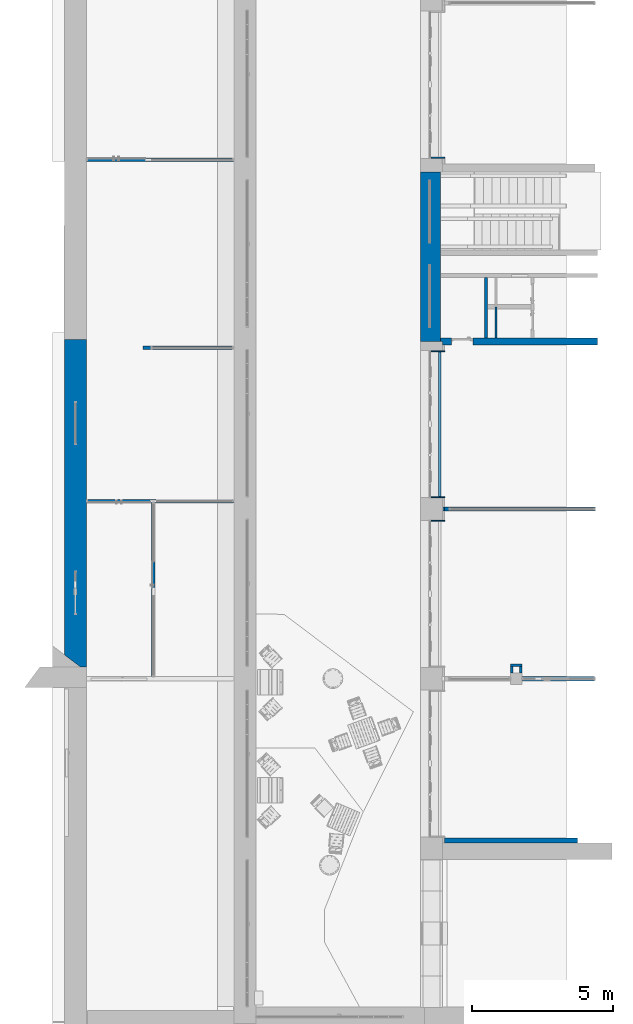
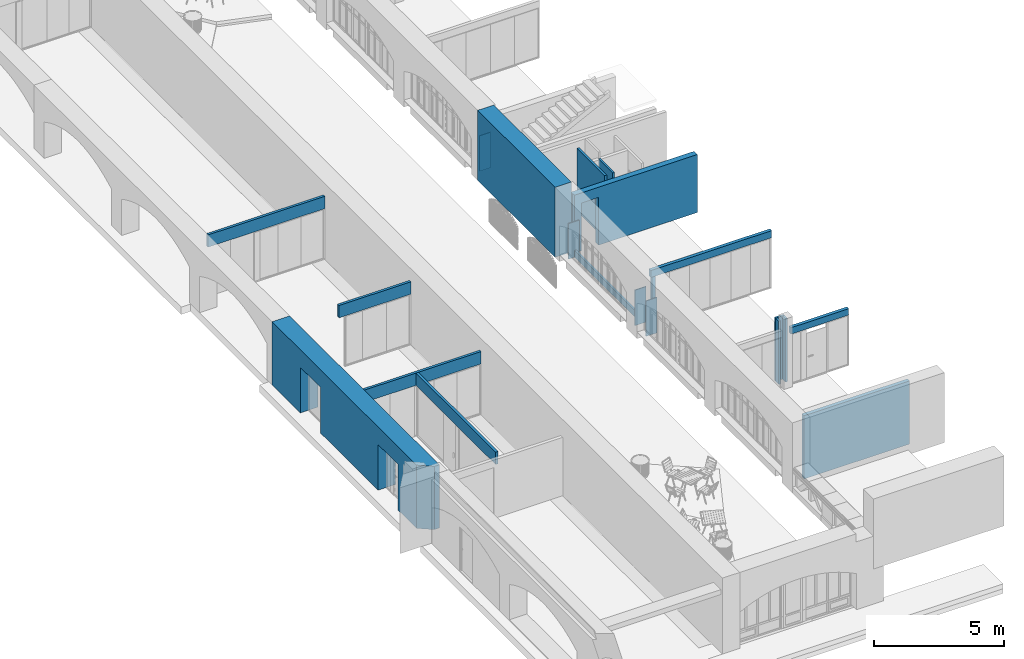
# One storey, part 72 of 88: 21 walls, 5 openings.
"""IFC2X3 building model written with IfcOpenShell, lengths in millimetres."""

from ifc_helpers import new_model, entity, si_unit, converted_unit, derived_unit, direction, frame, frame_2d, origin, origin_2d_with_axis, place, context, subcontext, project, spatial, polyline, circle_curve, parameter, trimmed, segment, composite_curve, rectangle, outline, extrude, clip, bounded_halfspace, faceted_brep, material, layer, layer_set, layer_usage, type_object, element, save


model = new_model("IFC2X3")

# Units and contexts
model_context = context("Model", 3, precision=0.01, world=origin(), true_north=direction((6.123031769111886e-17, 1.0)))
body_context = subcontext(model_context, "Body", "Model", "MODEL_VIEW")
ifc_project = project(units=[si_unit("LENGTHUNIT", "METRE", prefix="MILLI"), si_unit("AREAUNIT", "SQUARE_METRE"), si_unit("VOLUMEUNIT", "CUBIC_METRE"), converted_unit("PLANEANGLEUNIT", "DEGREE", entity("IfcPlaneAngleMeasure", 0.017453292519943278), si_unit("PLANEANGLEUNIT", "RADIAN"), dimensions=[0, 0, 0, 0, 0, 0, 0]), si_unit("MASSUNIT", "GRAM", prefix="KILO"), derived_unit("MASSDENSITYUNIT", [(si_unit("MASSUNIT", "GRAM", prefix="KILO"), 1), (si_unit("LENGTHUNIT", "METRE"), -3)]), derived_unit("IONCONCENTRATIONUNIT", [(si_unit("MASSUNIT", "GRAM", prefix="KILO"), 1), (si_unit("LENGTHUNIT", "METRE"), -3)]), derived_unit("MOMENTOFINERTIAUNIT", [(si_unit("LENGTHUNIT", "METRE"), 4)]), si_unit("TIMEUNIT", "SECOND"), si_unit("FREQUENCYUNIT", "HERTZ"), si_unit("THERMODYNAMICTEMPERATUREUNIT", "DEGREE_CELSIUS"), derived_unit("THERMALTRANSMITTANCEUNIT", [(si_unit("MASSUNIT", "GRAM", prefix="KILO"), 1), (si_unit("THERMODYNAMICTEMPERATUREUNIT", "KELVIN"), -1), (si_unit("TIMEUNIT", "SECOND"), -3)]), derived_unit("THERMALCONDUCTANCEUNIT", [(si_unit("MASSUNIT", "GRAM", prefix="KILO"), 1), (si_unit("THERMODYNAMICTEMPERATUREUNIT", "KELVIN"), -1), (si_unit("TIMEUNIT", "SECOND"), -3), (si_unit("LENGTHUNIT", "METRE"), 1)]), derived_unit("VOLUMETRICFLOWRATEUNIT", [(si_unit("LENGTHUNIT", "METRE", prefix="DECI"), 3), (si_unit("TIMEUNIT", "SECOND"), -1)]), derived_unit("MASSFLOWRATEUNIT", [(si_unit("MASSUNIT", "GRAM", prefix="KILO"), 1), (si_unit("TIMEUNIT", "SECOND"), -1)]), derived_unit("ROTATIONALFREQUENCYUNIT", [(si_unit("TIMEUNIT", "SECOND"), -1)]), si_unit("ELECTRICCURRENTUNIT", "AMPERE"), si_unit("ELECTRICVOLTAGEUNIT", "VOLT"), si_unit("POWERUNIT", "WATT"), si_unit("FORCEUNIT", "NEWTON", prefix="KILO"), si_unit("ILLUMINANCEUNIT", "LUX"), si_unit("LUMINOUSFLUXUNIT", "LUMEN"), si_unit("LUMINOUSINTENSITYUNIT", "CANDELA"), si_unit("ENERGYUNIT", "JOULE"), derived_unit("USERDEFINED", [(si_unit("MASSUNIT", "GRAM", prefix="KILO"), -1), (si_unit("LENGTHUNIT", "METRE"), -2), (si_unit("TIMEUNIT", "SECOND"), 3), (si_unit("LUMINOUSFLUXUNIT", "LUMEN"), 1)]), derived_unit("USERDEFINED", [(si_unit("MASSUNIT", "GRAM", prefix="KILO"), 1), (si_unit("TIMEUNIT", "SECOND"), -3), (si_unit("LENGTHUNIT", "METRE"), 3), (si_unit("ELECTRICCURRENTUNIT", "AMPERE"), -2)]), derived_unit("SOUNDPOWERUNIT", [(si_unit("MASSUNIT", "GRAM", prefix="KILO"), 1), (si_unit("TIMEUNIT", "SECOND"), -3), (si_unit("LENGTHUNIT", "METRE"), 2)]), derived_unit("SOUNDPRESSUREUNIT", [(si_unit("MASSUNIT", "GRAM", prefix="KILO"), 1), (si_unit("LENGTHUNIT", "METRE"), -1), (si_unit("TIMEUNIT", "SECOND"), -2)]), derived_unit("LINEARVELOCITYUNIT", [(si_unit("LENGTHUNIT", "METRE"), 1), (si_unit("TIMEUNIT", "SECOND"), -1)]), si_unit("PRESSUREUNIT", "PASCAL"), derived_unit("USERDEFINED", [(si_unit("MASSUNIT", "GRAM", prefix="KILO"), 1), (si_unit("LENGTHUNIT", "METRE"), -2), (si_unit("TIMEUNIT", "SECOND"), -2)]), derived_unit("LINEARFORCEUNIT", [(si_unit("MASSUNIT", "GRAM", prefix="KILO"), 1), (si_unit("TIMEUNIT", "SECOND"), -2)]), derived_unit("PLANARFORCEUNIT", [(si_unit("MASSUNIT", "GRAM", prefix="KILO"), 1), (si_unit("LENGTHUNIT", "METRE"), -1), (si_unit("TIMEUNIT", "SECOND"), -2)]), derived_unit("SPECIFICHEATCAPACITYUNIT", [(si_unit("THERMODYNAMICTEMPERATUREUNIT", "KELVIN"), -1), (si_unit("LENGTHUNIT", "METRE"), 2), (si_unit("TIMEUNIT", "SECOND"), -2)]), derived_unit("HEATFLUXDENSITYUNIT", [(si_unit("MASSUNIT", "GRAM", prefix="KILO"), 1), (si_unit("TIMEUNIT", "SECOND"), -3)]), derived_unit("HEATINGVALUEUNIT", [(si_unit("LENGTHUNIT", "METRE"), 2), (si_unit("TIMEUNIT", "SECOND"), -2)]), derived_unit("VAPORPERMEABILITYUNIT", [(si_unit("LENGTHUNIT", "METRE"), -1), (si_unit("TIMEUNIT", "SECOND"), 1)]), derived_unit("DYNAMICVISCOSITYUNIT", [(si_unit("MASSUNIT", "GRAM", prefix="KILO"), 1), (si_unit("TIMEUNIT", "SECOND"), -1), (si_unit("LENGTHUNIT", "METRE"), -1)]), derived_unit("THERMALEXPANSIONCOEFFICIENTUNIT", [(si_unit("THERMODYNAMICTEMPERATUREUNIT", "KELVIN"), -1)]), derived_unit("MODULUSOFELASTICITYUNIT", [(si_unit("MASSUNIT", "GRAM", prefix="KILO"), 1), (si_unit("LENGTHUNIT", "METRE"), -1), (si_unit("TIMEUNIT", "SECOND"), -2)]), derived_unit("ISOTHERMALMOISTURECAPACITYUNIT", [(si_unit("MASSUNIT", "GRAM", prefix="KILO"), -1), (si_unit("LENGTHUNIT", "METRE"), 3)]), derived_unit("MOISTUREDIFFUSIVITYUNIT", [(si_unit("TIMEUNIT", "SECOND"), -1), (si_unit("LENGTHUNIT", "METRE"), 2)]), derived_unit("MASSPERLENGTHUNIT", [(si_unit("MASSUNIT", "GRAM", prefix="KILO"), 1), (si_unit("LENGTHUNIT", "METRE"), -1)]), derived_unit("THERMALRESISTANCEUNIT", [(si_unit("MASSUNIT", "GRAM", prefix="KILO"), -1), (si_unit("TIMEUNIT", "SECOND"), 3), (si_unit("THERMODYNAMICTEMPERATUREUNIT", "KELVIN"), 1)]), derived_unit("ACCELERATIONUNIT", [(si_unit("LENGTHUNIT", "METRE"), 1), (si_unit("TIMEUNIT", "SECOND"), -2)]), derived_unit("ANGULARVELOCITYUNIT", [(si_unit("TIMEUNIT", "SECOND"), -1), (si_unit("PLANEANGLEUNIT", "RADIAN"), 1)]), derived_unit("LINEARSTIFFNESSUNIT", [(si_unit("MASSUNIT", "GRAM", prefix="KILO"), 1), (si_unit("TIMEUNIT", "SECOND"), -2)]), derived_unit("WARPINGCONSTANTUNIT", [(si_unit("LENGTHUNIT", "METRE"), 6)]), derived_unit("LINEARMOMENTUNIT", [(si_unit("MASSUNIT", "GRAM", prefix="KILO"), 1), (si_unit("LENGTHUNIT", "METRE"), 1), (si_unit("TIMEUNIT", "SECOND"), -2)]), derived_unit("TORQUEUNIT", [(si_unit("MASSUNIT", "GRAM", prefix="KILO"), 1), (si_unit("LENGTHUNIT", "METRE"), 2), (si_unit("TIMEUNIT", "SECOND"), -2)])], contexts=[model_context])

# Site, building, storey
site_placement = place(None, origin())
site = spatial("IfcSite", under=ifc_project, at=site_placement, Name="Default", CompositionType="ELEMENT")
building_placement = place(site_placement, origin())
building = spatial("IfcBuilding", under=site, at=building_placement, Name="Eesti Rahvusraamatukogu hoone renoveerimise projekteerimistööd", CompositionType="ELEMENT")
storey_placement = place(building_placement, origin())
storey = spatial("IfcBuildingStorey", under=building, at=storey_placement, Name="1. korrus", CompositionType="ELEMENT", Elevation=0.0)

# Wall, openings
ifc_material_1 = material(Name="ol. olev materjal")
ifc_layer_1 = layer(ifc_material_1, 780.0)
ifc_layer_set_1 = layer_set([ifc_layer_1], Name="Basic Wall:ol. olev - 780mm")
ifc_layer_usage_1 = layer_usage(ifc_layer_set_1, "AXIS2", "NEGATIVE", 390.0)
wall_type_1 = type_object("IfcWallType", Name="Basic Wall:ol. olev - 780mm", PredefinedType="STANDARD", material=ifc_layer_set_1)
wall_1_placement = place(storey_placement, frame((-48970.0, 24382.39541666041, 0.0), z_axis=(0.0, 0.0, 1.0), x_axis=(0.0, -1.0, 0.0)))
wall_1 = element("IfcWallStandardCase", 1, at=wall_1_placement, inside=storey, type_object=wall_type_1, material=ifc_layer_usage_1, Name="Basic Wall:ol. olev - 780mm", ObjectType="Basic Wall:ol. olev - 780mm", context=body_context, shape_type="Clipping", body=[
    clip(extrude(rectangle(XDim=11567.395416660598, YDim=779.9999999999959, at=frame_2d((5783.697708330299, -2.5579538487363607e-13), x_axis=(-1.0, 0.0))), origin(), (0.0, 0.0, 1.0), 2980.0), bounded_halfspace(frame((11147.221735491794, -390.0, 2980.0), z_axis=(-0.7986355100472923, 0.6018150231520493, 0.0), x_axis=(-0.6018150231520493, -0.7986355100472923, 0.0)), True, frame((11147.221735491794, -390.0, 2980.0), z_axis=(-0.7986355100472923, 0.6018150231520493, 0.0), x_axis=(-0.6018150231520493, -0.7986355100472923, 0.0)), polyline([(0.0, 0.0), (-698.177454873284, 0.0), (-698.1774548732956, -2980.0), (0.0, -2980.0), (0.0, 0.0)]))),
])
opening_1_placement = place(wall_1_placement, frame((24382.39541666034, 48970.0, 0.0)))
element("IfcOpeningElement", 2, at=opening_1_placement, cuts=wall_1, Name="Basic Wall:ol. olev - 780mm", ObjectType="Opening", context=body_context, shape_type="SweptSolid", body=[
    extrude(rectangle(XDim=2150.0, YDim=1550.0000000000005, at=origin_2d_with_axis()), frame((-15430.0, -50104.0, 1075.0), z_axis=(0.0, 1.0, 0.0), x_axis=(0.0, 0.0, -1.0)), (0.0, 0.0, 1.0), 3048.0),
])
opening_2_placement = place(wall_1_placement, frame((24382.39541666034, 48970.0, 0.0)))
element("IfcOpeningElement", 3, at=opening_2_placement, cuts=wall_1, Name="Basic Wall:ol. olev - 780mm", ObjectType="Opening", context=body_context, shape_type="SweptSolid", body=[
    extrude(rectangle(XDim=2150.0, YDim=1549.9999999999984, at=frame_2d((0.0, -2.1600499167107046e-12), x_axis=(1.0, 0.0))), frame((-21430.0, -50104.0, 1075.0), z_axis=(0.0, 1.0, 0.0), x_axis=(0.0, 0.0, -1.0)), (0.0, 0.0, 1.0), 3048.0),
])

# Wall, opening
ifc_layer_2 = layer(ifc_material_1, 250.00000000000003)
ifc_layer_set_2 = layer_set([ifc_layer_2], Name="Basic Wall:ol. olev - 250mm")
ifc_layer_usage_2 = layer_usage(ifc_layer_set_2, "AXIS2", "NEGATIVE", 125.00000000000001)
wall_type_2 = type_object("IfcWallType", Name="Basic Wall:ol. olev - 250mm", PredefinedType="STANDARD", material=ifc_layer_set_2)
wall_2_placement = place(storey_placement, frame((-36060.0, 24315.0, 1650.0)))
wall_2 = element("IfcWallStandardCase", 4, at=wall_2_placement, inside=storey, type_object=wall_type_2, material=ifc_layer_usage_2, Name="Basic Wall:ol. olev - 250mm", ObjectType="Basic Wall:ol. olev - 250mm", context=body_context, shape_type="SweptSolid", body=[
    extrude(outline(polyline([(60.0, -125.0), (5470.0, -125.0), (5550.0, -125.0), (5550.0, 0.0), (5550.0, 125.0), (5470.0, 125.0), (0.0, 125.0), (0.0, 0.0), (60.0, 0.0), (60.0, -125.0)])), origin(), (0.0, 0.0, 1.0), 2730.0000000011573),
])
opening_3_placement = place(wall_2_placement, frame((390.0, -125.0, 0.0)))
element("IfcOpeningElement", 5, at=opening_3_placement, cuts=wall_2, Name="SMA_D01, 1-poolne:uus puituks - 750x2250 lävepakuta:1", ObjectType="Opening", context=body_context, shape_type="SweptSolid", body=[
    extrude(rectangle(XDim=2249.9999999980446, YDim=749.9999999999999, at=frame_2d((1124.9999999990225, 375.0000000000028), x_axis=(1.0, 0.0))), frame((0.0, 0.0, 0.0), z_axis=(0.0, 1.0, 0.0), x_axis=(0.0, 0.0, 1.0)), (0.0, 0.0, 1.0), 250.00000000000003),
])

# Walls
ifc_layer_3 = layer(ifc_material_1, 720.0)
ifc_layer_set_3 = layer_set([ifc_layer_3], Name="Basic Wall:ol. olev - 720mm")
ifc_layer_usage_3 = layer_usage(ifc_layer_set_3, "AXIS2", "NEGATIVE", 360.0)
wall_type_3 = type_object("IfcWallType", Name="Basic Wall:ol. olev - 720mm", PredefinedType="STANDARD", material=ifc_layer_set_3)
wall_3_placement = place(storey_placement, frame((-36420.0, 30450.0, 1650.0), z_axis=(0.0, 0.0, 1.0), x_axis=(0.0, -1.0, 0.0)))
element("IfcWallStandardCase", 6, at=wall_3_placement, inside=storey, type_object=wall_type_3, material=ifc_layer_usage_3, Name="Basic Wall:ol. olev - 720mm", ObjectType="Basic Wall:ol. olev - 720mm", context=body_context, shape_type="SweptSolid", body=[
    extrude(rectangle(XDim=5989.9999999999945, YDim=720.0000000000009, at=frame_2d((3139.9999999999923, 6.821210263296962e-13), x_axis=(-1.0, 0.0))), origin(), (0.0, 0.0, 1.0), 3300.0000000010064),
])
ifc_material_2 = material(Name="EST. Müüritis. Väikeplokk. Poorbetoonplokk")
ifc_layer_4 = layer(ifc_material_2, 100.0)
ifc_layer_set_4 = layer_set([ifc_layer_4], Name="Basic Wall:SS-70 - 100 poorbetoon")
ifc_layer_usage_4 = layer_usage(ifc_layer_set_4, "AXIS2", "NEGATIVE", 50.0)
wall_type_4 = type_object("IfcWallType", Name="Basic Wall:SS-70 - 100 poorbetoon", PredefinedType="STANDARD", material=ifc_layer_set_4)
wall_4_placement = place(storey_placement, frame((-34455.0, 24440.0, 1650.0), z_axis=(0.0, 0.0, 1.0), x_axis=(0.0, 1.0, 0.0)))
element("IfcWallStandardCase", 7, at=wall_4_placement, inside=storey, type_object=wall_type_4, material=ifc_layer_usage_4, Name="Basic Wall:SS-70 - 100 poorbetoon", ObjectType="Basic Wall:SS-70 - 100 poorbetoon", context=body_context, shape_type="SweptSolid", body=[
    extrude(rectangle(XDim=2129.999999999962, YDim=100.00000000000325, at=frame_2d((1064.999999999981, -8.881784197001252e-14), x_axis=(-1.0, 0.0))), origin(), (0.0, 0.0, 1.0), 2980.000000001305),
])
ifc_material_3 = material(Name="EST. Ehitusplaat. Kipsplaat")
ifc_layer_5 = layer(ifc_material_3, 12.5)
ifc_layer_6 = layer(ifc_material_3, 12.5)
ifc_material_4 = material(Name="EST. Roov. Kipsplaadi alusroov.Mineraalvillaga. Vertikaalne")
ifc_layer_7 = layer(ifc_material_4, 95.00000000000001)
ifc_layer_8 = layer(ifc_material_3, 12.5)
ifc_layer_9 = layer(ifc_material_3, 12.5)
ifc_layer_set_5 = layer_set([ifc_layer_5, ifc_layer_6, ifc_layer_7, ifc_layer_8, ifc_layer_9], Name="Basic Wall:SS-52 - 145 kergsein 48db")
ifc_layer_usage_5 = layer_usage(ifc_layer_set_5, "AXIS2", "NEGATIVE", 72.5)
wall_type_5 = type_object("IfcWallType", Name="Basic Wall:SS-52 - 145 kergsein 48db", PredefinedType="STANDARD", material=ifc_layer_set_5)
wall_5_placement = place(storey_placement, frame((-35970.0, 18390.0, 4050.0)))
element("IfcWallStandardCase", 8, at=wall_5_placement, inside=storey, type_object=wall_type_5, material=ifc_layer_usage_5, Name="Basic Wall:SS-52 - 145 kergsein 48db", ObjectType="Basic Wall:SS-52 - 145 kergsein 48db", context=body_context, shape_type="SweptSolid", body=[
    extrude(rectangle(XDim=5380.000000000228, YDim=145.00000000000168, at=frame_2d((2690.000000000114, 0.0), x_axis=(-1.0, 0.0))), origin(), (0.0, 0.0, 1.0), 330.0000000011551),
])
ifc_layer_usage_6 = layer_usage(ifc_layer_set_5, "AXIS2", "NEGATIVE", 72.5)
wall_6_placement = place(storey_placement, frame((-33190.0, 12390.0, 4050.0000000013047)))
element("IfcWallStandardCase", 9, at=wall_6_placement, inside=storey, type_object=wall_type_5, material=ifc_layer_usage_6, Name="Basic Wall:SS-52 - 145 kergsein 48db", ObjectType="Basic Wall:SS-52 - 145 kergsein 48db", context=body_context, shape_type="SweptSolid", body=[
    extrude(rectangle(XDim=2569.9999999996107, YDim=145.00000000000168, at=frame_2d((1284.9999999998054, 0.0), x_axis=(-1.0, 0.0))), origin(), (0.0, 0.0, 1.0), 300.0000000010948),
])
ifc_layer_usage_7 = layer_usage(ifc_layer_set_5, "AXIS2", "NEGATIVE", 72.5)
wall_7_placement = place(storey_placement, frame((-35765.499999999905, 18390.0, 1650.000000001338), z_axis=(0.0, 0.0, 1.0), x_axis=(-1.0, 0.0, 0.0)))
element("IfcWallStandardCase", 10, at=wall_7_placement, inside=storey, type_object=wall_type_5, material=ifc_layer_usage_7, Name="Basic Wall:SS-52 - 145 kergsein 48db", ObjectType="Basic Wall:SS-52 - 145 kergsein 48db", context=body_context, shape_type="SweptSolid", body=[
    extrude(rectangle(XDim=150.00000000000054, YDim=145.00000000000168, at=frame_2d((75.00000000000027, 0.0), x_axis=(-1.0, 0.0))), origin(), (0.0, 0.0, 1.0), 2400.0),
])

# Wall, openings
ifc_layer_10 = layer(ifc_material_3, 14.0)
ifc_material_5 = material(Name="EST. Ehitusplaat. OSB")
ifc_layer_11 = layer(ifc_material_5, 15.0)
ifc_material_6 = material(Name="EST. Õhkvahe. Roov. Kipsplaadi alusroov. Vertikaalne")
ifc_layer_12 = layer(ifc_material_6, 66.0)
ifc_material_7 = material(Name="EST. Soojustus.PIR. Default")
ifc_layer_13 = layer(ifc_material_7, 70.0)
ifc_layer_set_6 = layer_set([ifc_layer_10, ifc_layer_11, ifc_layer_12, ifc_layer_13], Name="Basic Wall:VS-01 - 165 sooj. mitte läbiv")
ifc_layer_usage_8 = layer_usage(ifc_layer_set_6, "AXIS2", "NEGATIVE", 82.49999999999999)
wall_type_6 = type_object("IfcWallType", Name="Basic Wall:VS-01 - 165 sooj. mitte läbiv", PredefinedType="STANDARD", material=ifc_layer_set_6)
wall_8_placement = place(storey_placement, frame((-35915.49999999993, 6672.499999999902, 1650.0)))
wall_8 = element("IfcWallStandardCase", 11, at=wall_8_placement, inside=storey, type_object=wall_type_6, material=ifc_layer_usage_8, Name="Basic Wall:VS-01 - 165 sooj. mitte läbiv", ObjectType="Basic Wall:VS-01 - 165 sooj. mitte läbiv", context=body_context, shape_type="SweptSolid", body=[
    extrude(rectangle(XDim=4695.500000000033, YDim=165.0000000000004, at=frame_2d((2347.7500000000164, -5.329070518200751e-13), x_axis=(-1.0, 0.0))), origin(), (0.0, 0.0, 1.0), 2980.0000000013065),
])
opening_4_placement = place(wall_8_placement, frame((35915.49999999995, -6672.499999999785, -1650.0)))
element("IfcOpeningElement", 12, at=opening_4_placement, cuts=wall_8, Name="Basic Wall:VS-01 - 165 sooj. mitte läbiv", ObjectType="Opening", context=body_context, shape_type="SweptSolid", body=[
    extrude(outline(composite_curve([segment(polyline([(-695.0, -2610.0), (695.0, -2610.0)]), True, "CONTINUOUS"), segment(trimmed(circle_curve(frame_2d((695.0, 0.0), x_axis=(0.0, -1.0)), 2609.9999999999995), [parameter(359.99999999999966)], [parameter(179.99999999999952)], True, "PARAMETER"), True, "CONTINUOUS"), segment(polyline([(695.0, 2610.0), (-695.0, 2610.0)]), True, "CONTINUOUS"), segment(polyline([(-695.0, 2610.0), (-695.0, -2610.0)]), True, "CONTINUOUS")], self_intersect=False)), frame((-3400.0, 5066.0, 695.0), z_axis=(0.0, 1.0, 0.0), x_axis=(0.0, 0.0, 1.0)), (0.0, 0.0, 1.0), 3048.0),
])
opening_5_placement = place(wall_8_placement, frame((35915.49999999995, -6672.499999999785, 0.0)))
element("IfcOpeningElement", 13, at=opening_5_placement, cuts=wall_8, Name="Basic Wall:VS-01 - 165 sooj. mitte läbiv", ObjectType="Opening", context=body_context, shape_type="Brep", body=[
    faceted_brep([(-24780.0, 3780.0, 0.0), (-24780.0, 3780.0, 1950.0), (-24780.0, 3906.316483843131, 2025.5811205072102), (-24780.0, 4037.395462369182, 2092.5636649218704), (-24780.0, 4172.652468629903, 2150.648965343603), (-24780.0, 4311.484406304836, 2199.5780257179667), (-24780.0, 4453.272238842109, 2239.1326766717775), (-24780.0, 4597.383749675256, 2269.136548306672), (-24780.0, 4743.176361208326, 2289.4558566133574), (-24780.0, 4890.0, 2300.0), (-24780.0, 5036.823638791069, 2289.455856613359), (-24780.0, 5182.61625032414, 2269.136548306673), (-24780.0, 5326.727761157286, 2239.1326766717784), (-24780.0, 5468.515593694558, 2199.5780257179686), (-24780.0, 5607.3475313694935, 2150.6489653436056), (-24780.0, 5742.604537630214, 2092.563664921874), (-24780.0, 5873.683516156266, 2025.5811205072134), (-24780.0, 6000.0, 1950.0), (-24780.0, 6000.0, 0.0), (-24000.0, 4743.176361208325, 2289.4558566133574), (-24000.0, 4597.383749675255, 2269.136548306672), (-24000.0, 4453.272238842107, 2239.1326766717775), (-24000.0, 4311.484406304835, 2199.5780257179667), (-24000.0, 4172.652468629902, 2150.648965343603), (-24000.0, 4037.3954623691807, 2092.5636649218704), (-24000.0, 3906.31648384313, 2025.5811205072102), (-24000.0, 3780.0, 1950.0), (-24000.0, 3780.0, 0.0), (-24000.0, 6000.0, 0.0), (-24000.0, 6000.0, 1950.0), (-24000.0, 5873.683516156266, 2025.5811205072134), (-24000.0, 5742.604537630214, 2092.563664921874), (-24000.0, 5607.3475313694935, 2150.6489653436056), (-24000.0, 5468.5155936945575, 2199.5780257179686), (-24000.0, 5326.727761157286, 2239.1326766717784), (-24000.0, 5182.616250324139, 2269.136548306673), (-24000.0, 5036.823638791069, 2289.455856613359), (-24000.0, 4890.0, 2300.0)], [[[0, 1, 2, 3, 4, 5, 6, 7, 8, 9, 10, 11, 12, 13, 14, 15, 16, 17, 18]], [[19, 20, 21, 22, 23, 24, 25, 26, 27, 28, 29, 30, 31, 32, 33, 34, 35, 36, 37]], [[1, 0, 27, 26]], [[2, 1, 26, 25]], [[3, 2, 25, 24]], [[4, 3, 24, 23]], [[5, 4, 23, 22]], [[7, 6, 21, 20]], [[8, 7, 20, 19]], [[9, 8, 19, 37]], [[22, 21, 6, 5]], [[10, 9, 37, 36]], [[11, 10, 36, 35]], [[12, 11, 35, 34]], [[13, 12, 34, 33]], [[15, 14, 32, 31]], [[16, 15, 31, 30]], [[17, 16, 30, 29]], [[33, 32, 14, 13]], [[18, 17, 29, 28]], [[0, 18, 28, 27]]]),
])

# Walls
ifc_material_8 = material(Name="EST. Soojustus.PIR_Powerwall Pro")
ifc_layer_14 = layer(ifc_material_8, 30.0)
ifc_material_9 = material(Name="EST. Metall. Alumiinium. Mütsprofiil.")
ifc_layer_15 = layer(ifc_material_9, 42.0)
ifc_layer_16 = layer(ifc_material_3, 12.5)
ifc_layer_set_7 = layer_set([ifc_layer_14, ifc_layer_15, ifc_layer_16], Name="Basic Wall:VS-03.1 - soojustus")
ifc_layer_usage_9 = layer_usage(ifc_layer_set_7, "AXIS2", "POSITIVE", -42.25000000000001)
wall_type_7 = type_object("IfcWallType", Name="Basic Wall:VS-03.1 - soojustus", PredefinedType="STANDARD", material=ifc_layer_set_7)
wall_9_placement = place(storey_placement, frame((-36087.749999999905, 23950.499999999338, 1650.0), z_axis=(0.0, 0.0, 1.0), x_axis=(0.0, -1.0, 0.0)))
element("IfcWallStandardCase", 14, at=wall_9_placement, inside=storey, type_object=wall_type_7, material=ifc_layer_usage_9, Name="Basic Wall:VS-03.1 - soojustus", ObjectType="Basic Wall:VS-03.1 - soojustus", context=body_context, shape_type="SweptSolid", body=[
    extrude(rectangle(XDim=5120.999999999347, YDim=84.49999999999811, at=frame_2d((2560.4999999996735, 0.0), x_axis=(-1.0, 0.0))), origin(), (0.0, 0.0, 1.0), 319.99999999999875),
])
ifc_layer_17 = layer(ifc_material_3, 13.000000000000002)
ifc_layer_18 = layer(ifc_material_6, 67.0)
ifc_layer_set_8 = layer_set([ifc_layer_17, ifc_layer_18], Name="Basic Wall:SS-57 - 80 kergsein wc")
ifc_layer_usage_10 = layer_usage(ifc_layer_set_8, "AXIS2", "POSITIVE", -39.99999999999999)
wall_type_8 = type_object("IfcWallType", Name="Basic Wall:SS-57 - 80 kergsein wc", PredefinedType="STANDARD", material=ifc_layer_set_8)
wall_10_placement = place(storey_placement, frame((-34105.0, 24440.0, 1650.0), z_axis=(0.0, 0.0, 1.0), x_axis=(0.0, 1.0, 0.0)))
element("IfcWallStandardCase", 15, at=wall_10_placement, inside=storey, type_object=wall_type_8, material=ifc_layer_usage_10, Name="Basic Wall:SS-57 - 80 kergsein wc", ObjectType="Basic Wall:SS-57 - 80 kergsein wc", context=body_context, shape_type="SweptSolid", body=[
    extrude(rectangle(XDim=1100.0000000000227, YDim=79.99999999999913, at=frame_2d((550.0000000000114, 0.0), x_axis=(-1.0, 0.0))), origin(), (0.0, 0.0, 1.0), 2980.000000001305),
])
ifc_layer_19 = layer(ifc_material_3, 12.5)
ifc_layer_20 = layer(ifc_material_5, 12.0)
ifc_layer_21 = layer(ifc_material_4, 66.0)
ifc_layer_set_9 = layer_set([ifc_layer_19, ifc_layer_20, ifc_layer_21], Name="Basic Wall:SS-50.1 - 115 kergsein 38db ühepoolne")
ifc_layer_usage_11 = layer_usage(ifc_layer_set_9, "AXIS2", "NEGATIVE", 45.25)
wall_type_9 = type_object("IfcWallType", Name="Basic Wall:SS-50.1 - 115 kergsein 38db ühepoolne", PredefinedType="STANDARD", material=ifc_layer_set_9)
wall_11_placement = place(storey_placement, frame((-33544.749999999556, 12590.0, 1650.0), z_axis=(0.0, 0.0, 1.0), x_axis=(0.0, 1.0, 0.0)))
element("IfcWallStandardCase", 16, at=wall_11_placement, inside=storey, type_object=wall_type_9, material=ifc_layer_usage_11, Name="Basic Wall:SS-50.1 - 115 kergsein 38db ühepoolne", ObjectType="Basic Wall:SS-50.1 - 115 kergsein 38db ühepoolne", context=body_context, shape_type="Clipping", body=[
    clip(extrude(rectangle(XDim=239.50000000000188, YDim=90.49999999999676, at=frame_2d((119.75000000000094, -4.583000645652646e-13), x_axis=(-1.0, 0.0))), origin(), (0.0, 0.0, 1.0), 2980.000000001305), bounded_halfspace(frame((0.0, -45.25000000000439, 2980.0), z_axis=(0.0, 0.0, -1.0), x_axis=(0.0, -1.0, 0.0)), True, frame((0.0, -45.25000000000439, 2980.0)), polyline([(0.0, 0.0), (239.4999999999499, 0.0), (239.50000000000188, 90.50000000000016), (0.0, 90.5000000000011), (0.0, 0.0)]))),
])
ifc_layer_usage_12 = layer_usage(ifc_layer_set_9, "AXIS2", "NEGATIVE", 45.25)
wall_12_placement = place(storey_placement, frame((-33590.0, 12874.749999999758, 1650.0)))
element("IfcWallStandardCase", 17, at=wall_12_placement, inside=storey, type_object=wall_type_9, material=ifc_layer_usage_12, Name="Basic Wall:SS-50.1 - 115 kergsein 38db ühepoolne", ObjectType="Basic Wall:SS-50.1 - 115 kergsein 38db ühepoolne", context=body_context, shape_type="Clipping", body=[
    clip(extrude(rectangle(XDim=400.0000000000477, YDim=90.50000000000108, at=frame_2d((200.00000000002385, 5.684341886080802e-14), x_axis=(-1.0, 0.0))), origin(), (0.0, 0.0, 1.0), 2980.000000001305), bounded_halfspace(frame((0.0, -45.24999999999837, 2980.0), z_axis=(0.0, 0.0, -1.0), x_axis=(1.0, 0.0, 0.0)), True, frame((0.0, -45.24999999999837, 2980.0)), polyline([(0.0, 0.0), (90.50000000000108, 0.0), (309.49999999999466, 0.0), (400.0, 0.0), (400.0, 90.49999999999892), (0.0, 90.49999999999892), (0.0, 0.0)]))),
])
ifc_layer_usage_13 = layer_usage(ifc_layer_set_9, "AXIS2", "NEGATIVE", 45.25)
wall_13_placement = place(storey_placement, frame((-33235.249999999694, 12829.499999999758, 1650.0), z_axis=(0.0, 0.0, 1.0), x_axis=(0.0, -1.0, 0.0)))
element("IfcWallStandardCase", 18, at=wall_13_placement, inside=storey, type_object=wall_type_9, material=ifc_layer_usage_13, Name="Basic Wall:SS-50.1 - 115 kergsein 38db ühepoolne", ObjectType="Basic Wall:SS-50.1 - 115 kergsein 38db ühepoolne", context=body_context, shape_type="Clipping", body=[
    clip(extrude(rectangle(XDim=239.4999999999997, YDim=90.49999999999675, at=frame_2d((119.74999999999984, 0.0), x_axis=(-1.0, 0.0))), origin(), (0.0, 0.0, 1.0), 2980.000000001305), bounded_halfspace(frame((0.0, -45.25000000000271, 2980.0), z_axis=(0.0, 0.0, -1.0), x_axis=(0.0, 1.0, 0.0)), True, frame((0.0, -45.25000000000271, 2980.0)), polyline([(0.0, 0.0), (239.4999999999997, 0.0), (239.4999999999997, 90.50000000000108), (0.0, 90.50000000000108), (0.0, 0.0)]))),
])
ifc_material_10 = material(Name="Gypsum Wall Board")
ifc_layer_22 = layer(ifc_material_10, 12.5)
ifc_layer_23 = layer(ifc_material_5, 12.0)
ifc_material_11 = material(Name="Default")
ifc_layer_24 = layer(ifc_material_11, 66.0)
ifc_layer_25 = layer(ifc_material_5, 12.0)
ifc_layer_26 = layer(ifc_material_10, 12.5)
ifc_layer_set_10 = layer_set([ifc_layer_22, ifc_layer_23, ifc_layer_24, ifc_layer_25, ifc_layer_26], Name="Basic Wall:SS-51 - 115 kergsein 38db niiskuskindlam")
ifc_layer_usage_14 = layer_usage(ifc_layer_set_10, "AXIS2", "NEGATIVE", 57.49999999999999)
wall_type_10 = type_object("IfcWallType", Name="Basic Wall:SS-51 - 115 kergsein 38db niiskuskindlam", PredefinedType="STANDARD", material=ifc_layer_set_10)
wall_14_placement = place(storey_placement, frame((-48580.0, 18670.0, 2400.0)))
element("IfcWallStandardCase", 19, at=wall_14_placement, inside=storey, type_object=wall_type_10, material=ifc_layer_usage_14, Name="Basic Wall:SS-51 - 115 kergsein 38db niiskuskindlam", ObjectType="Basic Wall:SS-51 - 115 kergsein 38db niiskuskindlam", context=body_context, shape_type="SweptSolid", body=[
    extrude(rectangle(XDim=5210.000000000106, YDim=114.99999999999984, at=frame_2d((2605.000000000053, 0.0), x_axis=(-1.0, 0.0))), origin(), (0.0, 0.0, 1.0), 580.0),
])
ifc_layer_usage_15 = layer_usage(ifc_layer_set_10, "AXIS2", "NEGATIVE", 57.49999999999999)
wall_15_placement = place(storey_placement, frame((-46580.0, 24090.0, 2400.0)))
element("IfcWallStandardCase", 20, at=wall_15_placement, inside=storey, type_object=wall_type_10, material=ifc_layer_usage_15, Name="Basic Wall:SS-51 - 115 kergsein 38db niiskuskindlam", ObjectType="Basic Wall:SS-51 - 115 kergsein 38db niiskuskindlam", context=body_context, shape_type="SweptSolid", body=[
    extrude(rectangle(XDim=3210.000000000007, YDim=114.99999999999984, at=frame_2d((1605.0000000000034, 0.0), x_axis=(-1.0, 0.0))), origin(), (0.0, 0.0, 1.0), 580.0000000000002),
])
ifc_layer_usage_16 = layer_usage(ifc_layer_set_10, "AXIS2", "NEGATIVE", 57.49999999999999)
wall_16_placement = place(storey_placement, frame((-46222.50000000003, 12465.0, 2400.0), z_axis=(0.0, 0.0, 1.0), x_axis=(0.0, 1.0, 0.0)))
element("IfcWallStandardCase", 21, at=wall_16_placement, inside=storey, type_object=wall_type_10, material=ifc_layer_usage_16, Name="Basic Wall:SS-51 - 115 kergsein 38db niiskuskindlam", ObjectType="Basic Wall:SS-51 - 115 kergsein 38db niiskuskindlam", context=body_context, shape_type="SweptSolid", body=[
    extrude(rectangle(XDim=6147.500000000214, YDim=115.0000000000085, at=frame_2d((3073.750000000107, -3.197442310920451e-14), x_axis=(-1.0, 0.0))), origin(), (0.0, 0.0, 1.0), 580.0),
])
ifc_layer_usage_17 = layer_usage(ifc_layer_set_10, "AXIS2", "NEGATIVE", 57.49999999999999)
wall_17_placement = place(storey_placement, frame((-43370.0, 30735.37627987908, 2400.0), z_axis=(0.0, 0.0, 1.0), x_axis=(-1.0, 0.0, 0.0)))
element("IfcWallStandardCase", 22, at=wall_17_placement, inside=storey, type_object=wall_type_10, material=ifc_layer_usage_17, Name="Basic Wall:SS-51 - 115 kergsein 38db niiskuskindlam", ObjectType="Basic Wall:SS-51 - 115 kergsein 38db niiskuskindlam", context=body_context, shape_type="SweptSolid", body=[
    extrude(rectangle(XDim=5210.000000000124, YDim=114.99999999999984, at=frame_2d((2605.000000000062, 1.3855583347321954e-13), x_axis=(-1.0, 0.0))), origin(), (0.0, 0.0, 1.0), 580.0000000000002),
])
ifc_layer_27 = layer(ifc_material_9, 27.0)
ifc_layer_28 = layer(ifc_material_3, 12.5)
ifc_layer_set_11 = layer_set([ifc_layer_27, ifc_layer_28], Name="Basic Wall:VS-03.1_karkass+kips")
ifc_layer_usage_18 = layer_usage(ifc_layer_set_11, "AXIS2", "POSITIVE", -19.749999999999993)
wall_type_11 = type_object("IfcWallType", Name="Basic Wall:VS-03.1_karkass+kips", PredefinedType="STANDARD", material=ifc_layer_set_11)
wall_18_placement = place(storey_placement, frame((-35915.499999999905, 17970.24999999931, 1650.0), z_axis=(0.0, 0.0, 1.0), x_axis=(-1.0, 0.0, 0.0)))
element("IfcWallStandardCase", 23, at=wall_18_placement, inside=storey, type_object=wall_type_11, material=ifc_layer_usage_18, Name="Basic Wall:VS-03.1_karkass+kips", ObjectType="Basic Wall:VS-03.1_karkass+kips", context=body_context, shape_type="SweptSolid", body=[
    extrude(rectangle(XDim=489.4999999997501, YDim=39.49999999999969, at=frame_2d((244.74999999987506, -2.184918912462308e-13), x_axis=(-1.0, 0.0))), origin(), (0.0, 0.0, 1.0), 1669.9999999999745),
])
ifc_layer_usage_19 = layer_usage(ifc_layer_set_11, "AXIS2", "POSITIVE", -19.749999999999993)
wall_19_placement = place(storey_placement, frame((-35915.4999999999, 23970.249999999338, 1650.0), z_axis=(0.0, 0.0, 1.0), x_axis=(-1.0, 0.0, 0.0)))
element("IfcWallStandardCase", 24, at=wall_19_placement, inside=storey, type_object=wall_type_11, material=ifc_layer_usage_19, Name="Basic Wall:VS-03.1_karkass+kips", ObjectType="Basic Wall:VS-03.1_karkass+kips", context=body_context, shape_type="SweptSolid", body=[
    extrude(rectangle(XDim=489.4999999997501, YDim=39.49999999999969, at=frame_2d((244.74999999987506, 8.633094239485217e-13), x_axis=(-1.0, 0.0))), origin(), (0.0, 0.0, 1.0), 1669.9999999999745),
])
ifc_layer_usage_20 = layer_usage(ifc_layer_set_11, "AXIS2", "NEGATIVE", 19.749999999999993)
wall_20_placement = place(storey_placement, frame((-35915.4999999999, 18809.74999999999, 1650.0), z_axis=(0.0, 0.0, 1.0), x_axis=(-1.0, 0.0, 0.0)))
element("IfcWallStandardCase", 25, at=wall_20_placement, inside=storey, type_object=wall_type_11, material=ifc_layer_usage_20, Name="Basic Wall:VS-03.1_karkass+kips", ObjectType="Basic Wall:VS-03.1_karkass+kips", context=body_context, shape_type="SweptSolid", body=[
    extrude(rectangle(XDim=489.4999999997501, YDim=39.49999999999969, at=frame_2d((244.74999999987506, 2.2026824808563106e-13), x_axis=(-1.0, 0.0))), origin(), (0.0, 0.0, 1.0), 1669.9999999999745),
])
ifc_layer_usage_21 = layer_usage(ifc_layer_set_11, "AXIS2", "NEGATIVE", 19.749999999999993)
wall_21_placement = place(storey_placement, frame((-35915.499999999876, 30809.74999999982, 1650.0), z_axis=(0.0, 0.0, 1.0), x_axis=(-1.0, 0.0, 0.0)))
element("IfcWallStandardCase", 26, at=wall_21_placement, inside=storey, type_object=wall_type_11, material=ifc_layer_usage_21, Name="Basic Wall:VS-03.1_karkass+kips", ObjectType="Basic Wall:VS-03.1_karkass+kips", context=body_context, shape_type="SweptSolid", body=[
    extrude(rectangle(XDim=489.4999999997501, YDim=39.49999999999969, at=frame_2d((244.74999999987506, -8.615330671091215e-13), x_axis=(-1.0, 0.0))), origin(), (0.0, 0.0, 1.0), 1669.9999999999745),
])

save(model, "model.ifc")
